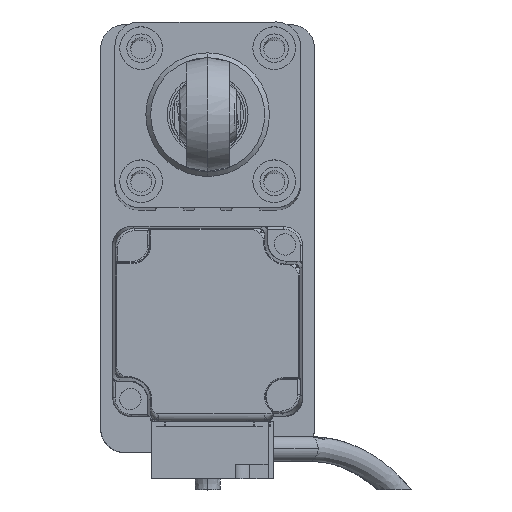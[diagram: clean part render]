
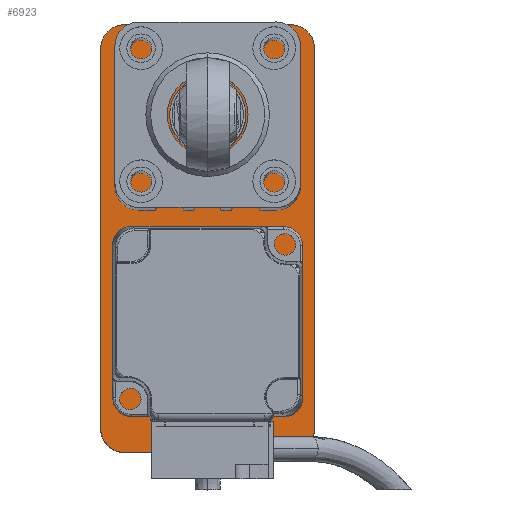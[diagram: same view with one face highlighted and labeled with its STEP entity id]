
A CAD part, top view. The second image highlights one B-rep face of the part: STEP entity #6923.
In plain terms, the highlighted planar face has unit normal (0, 0, 1).
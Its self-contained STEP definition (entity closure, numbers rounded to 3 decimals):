
#424 = CARTESIAN_POINT ( 'NONE',  ( -17.5, 45., 10. ) ) ;
#796 = EDGE_CURVE ( 'NONE', #20802, #22413, #16494, .T. ) ;
#1278 = CARTESIAN_POINT ( 'NONE',  ( 22.5, -45., 10. ) ) ;
#1506 = VERTEX_POINT ( 'NONE', #32216 ) ;
#1787 = EDGE_CURVE ( 'NONE', #22079, #1506, #12945, .T. ) ;
#2004 = LINE ( 'NONE', #1278, #16988 ) ;
#2331 = CARTESIAN_POINT ( 'NONE',  ( 22.5, 40., 10. ) ) ;
#2423 = DIRECTION ( 'NONE',  ( 1., 0., 0. ) ) ;
#2543 = VERTEX_POINT ( 'NONE', #14409 ) ;
#3197 = PLANE ( 'NONE',  #15520 ) ;
#3528 = VERTEX_POINT ( 'NONE', #11047 ) ;
#4575 = CIRCLE ( 'NONE', #13349, 5. ) ;
#4743 = ORIENTED_EDGE ( 'NONE', *, *, #12550, .T. ) ;
#5015 = EDGE_CURVE ( 'NONE', #22413, #25583, #21469, .T. ) ;
#5558 = VECTOR ( 'NONE', #32237, 1000. ) ;
#5658 = DIRECTION ( 'NONE',  ( 0., 0., 1. ) ) ;
#5854 = ORIENTED_EDGE ( 'NONE', *, *, #1787, .T. ) ;
#6325 = DIRECTION ( 'NONE',  ( 1., 0., 0. ) ) ;
#6526 = ORIENTED_EDGE ( 'NONE', *, *, #30248, .T. ) ;
#6923 = ADVANCED_FACE ( 'NONE', ( #28140 ), #3197, .T. ) ;
#7250 = ORIENTED_EDGE ( 'NONE', *, *, #11048, .T. ) ;
#7760 = CARTESIAN_POINT ( 'NONE',  ( -17.5, 40., 10. ) ) ;
#8069 = VERTEX_POINT ( 'NONE', #31505 ) ;
#8430 = DIRECTION ( 'NONE',  ( 0., 0., 1. ) ) ;
#8776 = DIRECTION ( 'NONE',  ( 0., 0., 1. ) ) ;
#9050 = CARTESIAN_POINT ( 'NONE',  ( 17.5, 45., 10. ) ) ;
#10196 = DIRECTION ( 'NONE',  ( 0., 0., 1. ) ) ;
#10315 = CARTESIAN_POINT ( 'NONE',  ( 0., 0., 10. ) ) ;
#10406 = DIRECTION ( 'NONE',  ( 1., 0., 0. ) ) ;
#11047 = CARTESIAN_POINT ( 'NONE',  ( -22.5, 40., 10. ) ) ;
#11048 = EDGE_CURVE ( 'NONE', #1506, #20802, #31071, .T. ) ;
#11120 = LINE ( 'NONE', #14756, #5558 ) ;
#12102 = AXIS2_PLACEMENT_3D ( 'NONE', #30503, #25420, #10406 ) ;
#12550 = EDGE_CURVE ( 'NONE', #8069, #2543, #4575, .T. ) ;
#12945 = CIRCLE ( 'NONE', #12102, 5. ) ;
#13349 = AXIS2_PLACEMENT_3D ( 'NONE', #23477, #8430, #28565 ) ;
#13817 = CARTESIAN_POINT ( 'NONE',  ( 17.5, 40., 10. ) ) ;
#14409 = CARTESIAN_POINT ( 'NONE',  ( -17.5, -45., 10. ) ) ;
#14756 = CARTESIAN_POINT ( 'NONE',  ( -22.5, -45., 10. ) ) ;
#14781 = VECTOR ( 'NONE', #17856, 1000. ) ;
#14794 = EDGE_CURVE ( 'NONE', #3528, #8069, #11120, .T. ) ;
#15153 = ORIENTED_EDGE ( 'NONE', *, *, #14794, .T. ) ;
#15520 = AXIS2_PLACEMENT_3D ( 'NONE', #10315, #5658, #28123 ) ;
#16494 = CIRCLE ( 'NONE', #25978, 5. ) ;
#16988 = VECTOR ( 'NONE', #18918, 1000. ) ;
#17743 = DIRECTION ( 'NONE',  ( 0., 1., 0. ) ) ;
#17856 = DIRECTION ( 'NONE',  ( -1., 0., 0. ) ) ;
#18918 = DIRECTION ( 'NONE',  ( 1., 0., 0. ) ) ;
#20406 = VECTOR ( 'NONE', #17743, 1000. ) ;
#20630 = ORIENTED_EDGE ( 'NONE', *, *, #5015, .T. ) ;
#20802 = VERTEX_POINT ( 'NONE', #2331 ) ;
#21313 = ORIENTED_EDGE ( 'NONE', *, *, #27761, .T. ) ;
#21469 = LINE ( 'NONE', #30197, #14781 ) ;
#22079 = VERTEX_POINT ( 'NONE', #29452 ) ;
#22413 = VERTEX_POINT ( 'NONE', #9050 ) ;
#22579 = CARTESIAN_POINT ( 'NONE',  ( 22.5, -45., 10. ) ) ;
#23477 = CARTESIAN_POINT ( 'NONE',  ( -17.5, -40., 10. ) ) ;
#25058 = EDGE_LOOP ( 'NONE', ( #7250, #25355, #20630, #6526, #15153, #4743, #21313, #5854 ) ) ;
#25355 = ORIENTED_EDGE ( 'NONE', *, *, #796, .T. ) ;
#25420 = DIRECTION ( 'NONE',  ( 0., 0., 1. ) ) ;
#25583 = VERTEX_POINT ( 'NONE', #424 ) ;
#25978 = AXIS2_PLACEMENT_3D ( 'NONE', #13817, #8776, #6325 ) ;
#27189 = AXIS2_PLACEMENT_3D ( 'NONE', #7760, #10196, #2423 ) ;
#27761 = EDGE_CURVE ( 'NONE', #2543, #22079, #2004, .T. ) ;
#28123 = DIRECTION ( 'NONE',  ( 1., 0., 0. ) ) ;
#28140 = FACE_OUTER_BOUND ( 'NONE', #25058, .T. ) ;
#28565 = DIRECTION ( 'NONE',  ( 1., 0., 0. ) ) ;
#29452 = CARTESIAN_POINT ( 'NONE',  ( 17.5, -45., 10. ) ) ;
#30197 = CARTESIAN_POINT ( 'NONE',  ( 22.5, 45., 10. ) ) ;
#30248 = EDGE_CURVE ( 'NONE', #25583, #3528, #31906, .T. ) ;
#30503 = CARTESIAN_POINT ( 'NONE',  ( 17.5, -40., 10. ) ) ;
#31071 = LINE ( 'NONE', #22579, #20406 ) ;
#31505 = CARTESIAN_POINT ( 'NONE',  ( -22.5, -40., 10. ) ) ;
#31906 = CIRCLE ( 'NONE', #27189, 5. ) ;
#32216 = CARTESIAN_POINT ( 'NONE',  ( 22.5, -40., 10. ) ) ;
#32237 = DIRECTION ( 'NONE',  ( 0., -1., 0. ) ) ;
